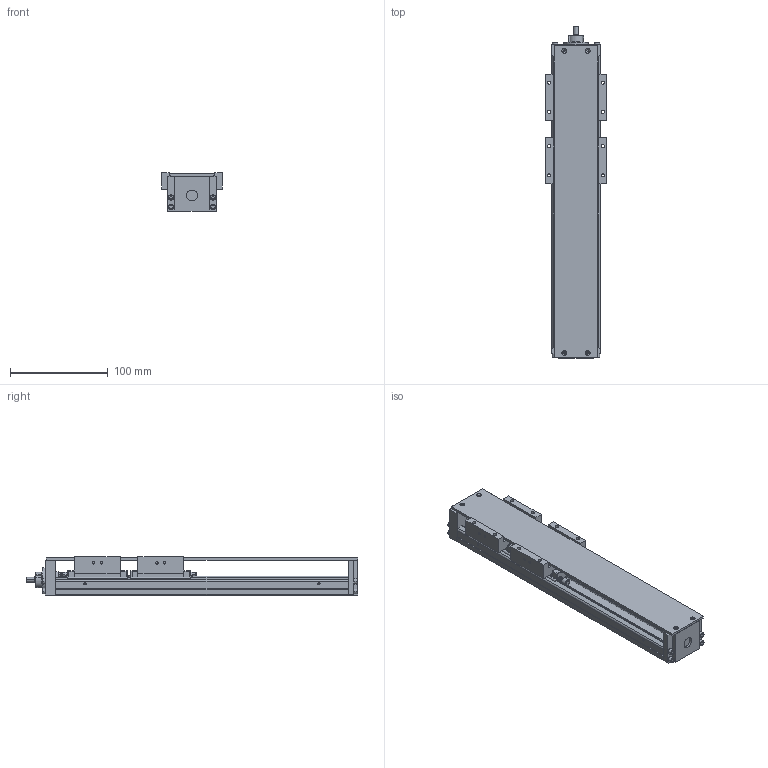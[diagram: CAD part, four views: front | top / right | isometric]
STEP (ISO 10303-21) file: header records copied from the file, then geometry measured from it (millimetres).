
FILE_DESCRIPTION(('no description'),'unknown implementation level');
FILE_NAME('KK5002P300A2H0C00_FILE_21.stp',' ',('HIWIN GmbH'),('CADClick - KiM GmbH - www.kimweb.de'),'unknown preprocess','ACIS','unknown authorization');
FILE_SCHEMA(('automotive_design'));
Length unit declared in the file: millimetre
Products named in the file (3): KK5002P300A2H0C00_FILE_1; KK50_FILE; KK5002P300A2H0C00_FILE
Bounding box: 62 x 340.5 x 40 mm (x, y, z)
Volume: 357764.3 mm3; surface area: 138501.1 mm2
Topology: 3 solids, 19 shells, 1181 faces, 2980 edges, 1891 vertices
Faces by surface type: plane 714, cylinder 329, cone 86, torus 52
Entity records: 69697 total; most frequent: CARTESIAN_POINT 7009, DIRECTION 6180, STYLED_ITEM 6017, PRESENTATION_STYLE_ASSIGNMENT 6017, COLOUR_RGB 6017, ORIENTED_EDGE 5884, EDGE_CURVE 2942, CURVE_STYLE 2942
